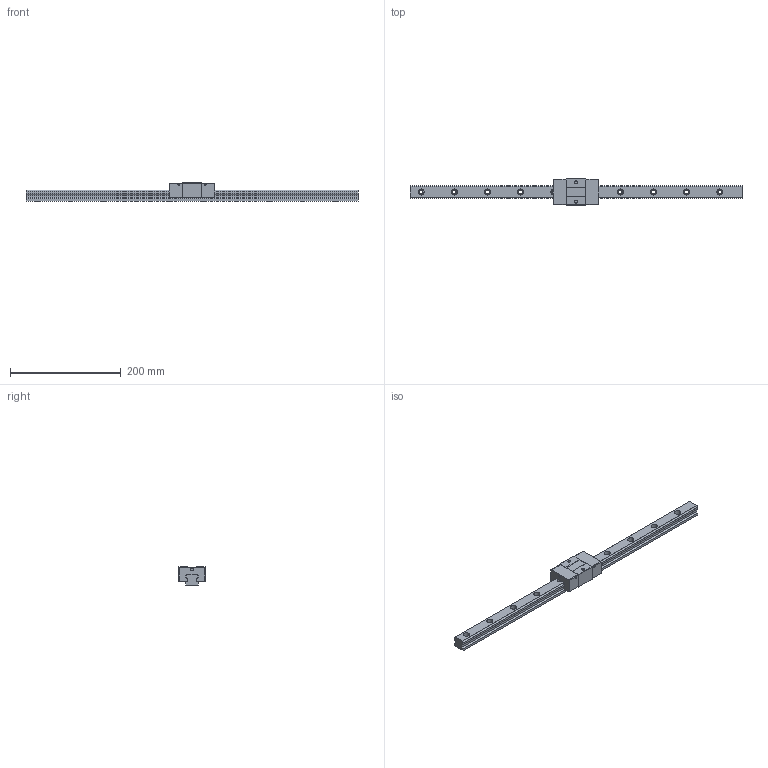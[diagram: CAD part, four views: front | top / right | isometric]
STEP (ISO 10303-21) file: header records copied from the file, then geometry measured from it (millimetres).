
FILE_DESCRIPTION (( 'STEP AP203' ), '1' );
FILE_NAME ('TRS25VS-DZ.STEP', '2024-06-28T07:24:18', ( '' ), ( '' ), 'SwSTEP 2.0', 'SolidWorks 2022', '' );
FILE_SCHEMA (( 'CONFIG_CONTROL_DESIGN' ));
Length unit declared in the file: millimetre
Products named in the file (1): TRS25VS-DZ
Bounding box: 600 x 48 x 33 mm (x, y, z)
Volume: 313788 mm3; surface area: 76530.9 mm2
Topology: 2 solids, 2 shells, 186 faces, 484 edges, 320 vertices
Faces by surface type: plane 94, cylinder 92
Entity records: 5863 total; most frequent: DIRECTION 1042, CARTESIAN_POINT 991, ORIENTED_EDGE 968, EDGE_CURVE 484, AXIS2_PLACEMENT_3D 371, VERTEX_POINT 320, VECTOR 300, LINE 300
